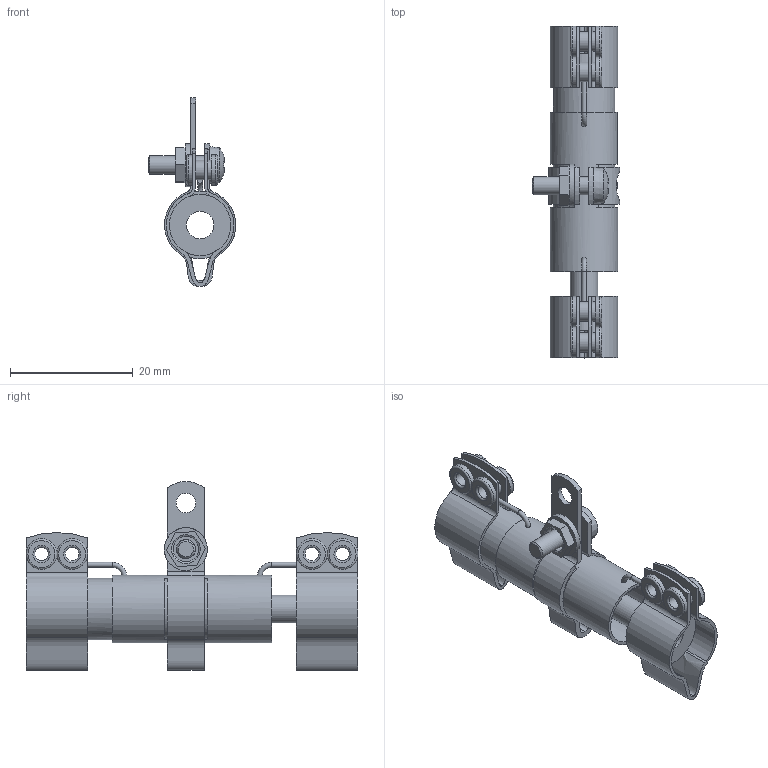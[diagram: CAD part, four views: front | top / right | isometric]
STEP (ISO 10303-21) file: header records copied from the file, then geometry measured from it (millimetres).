
FILE_DESCRIPTION(/* description */ (''),/* implementation_level */ '2;1');
FILE_NAME(/* name */ 'C:\_Vault\Dati\CATALOGO\RC-RS\RC-RS R TF\RSR TF 15.stp',/* time_stamp */ '2014-03-21T08:57:09+01:00',/* author */ ('stefano'),/* organization */ (''),/* preprocessor_version */ 'ST-DEVELOPER v15.2',/* originating_system */ 'Autodesk Inventor 2014',/* authorisation */ '');
FILE_SCHEMA (('AUTOMOTIVE_DESIGN { 1 0 10303 214 3 1 1 }'));
Length unit declared in the file: millimetre
Products named in the file (1): RSR TF 15
Bounding box: 14.25 x 54 x 30.75 mm (x, y, z)
Volume: 4056 mm3; surface area: 5083.2 mm2
Topology: 1 solids, 13 shells, 296 faces, 730 edges, 464 vertices
Faces by surface type: plane 140, cylinder 97, bspline 20, cone 19, torus 19, sphere 1
Full cylindrical faces by diameter (mm): 0.4 x2, 0.8 x4, 2.2 x4, 2.75 x1, 3 x1, 3.2 x11, 4.134 x1, 4.5 x1, 5 x8, 7 x1, 10 x3, 11 x1
Entity records: 9547 total; most frequent: CARTESIAN_POINT 2563, DIRECTION 1368, ORIENTED_EDGE 1326, EDGE_CURVE 651, AXIS2_PLACEMENT_3D 556, VERTEX_POINT 439, EDGE_LOOP 396, STYLED_ITEM 295
